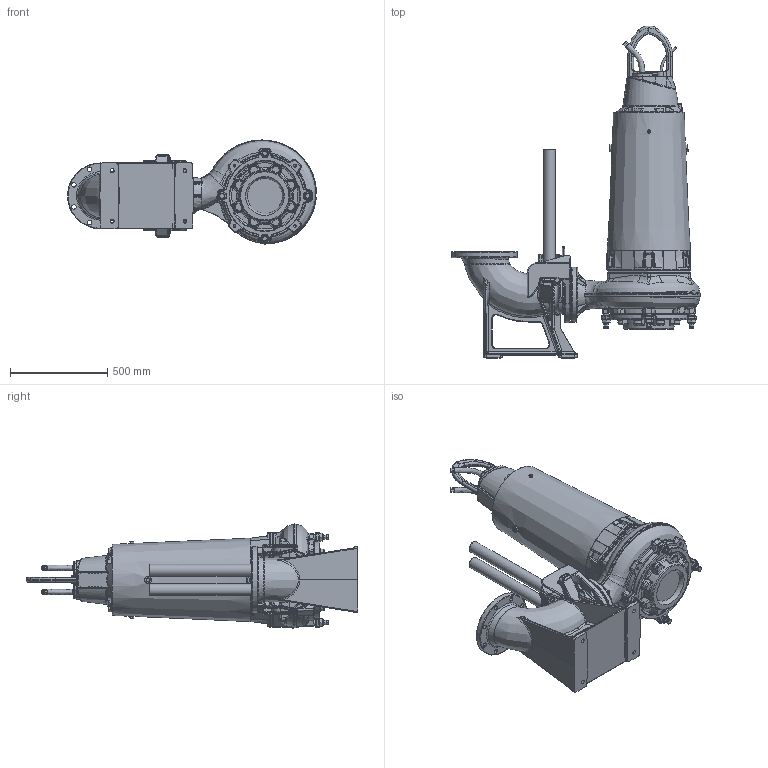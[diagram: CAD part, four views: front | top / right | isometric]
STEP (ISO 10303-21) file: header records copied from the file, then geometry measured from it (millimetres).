
FILE_DESCRIPTION (( 'STEP AP203' ), '1' );
FILE_NAME ('PE4_XFP155J-CB2_WET 2guide_NG2_DN 150-200.STEP', '2022-03-30T15:05:40', ( '' ), ( '' ), 'SwSTEP 2.0', 'SolidWorks 2017', '' );
FILE_SCHEMA (( 'CONFIG_CONTROL_DESIGN' ));
Products named in the file (2): PE4_XFP155J-CB2_WET 2guide_NG2_DN 150-200
Bounding box: 1282.59 x 1709.97 x 536.38 mm (x, y, z)
Volume: 200073325.8 mm3; surface area: 4806069.7 mm2
Topology: 46 solids, 56 shells, 4226 faces, 10066 edges, 5868 vertices
Faces by surface type: bspline 1409, plane 976, cylinder 933, cone 391, torus 347, sphere 170
Full cylindrical faces by diameter (mm): 2.9 x26, 5 x1, 6.8 x4, 8 x14, 8.5 x8, 9 x2, 10 x5, 10.2 x2, 11 x9, 11.5 x1, 14 x14, 16 x10, 17 x4, 17.5 x4, 18 x6, 18.5 x2, 19 x4, 20 x5, 22 x2, 23 x16, 23.481 x2, 23.482 x2, 25 x6, 27 x4, 27.5 x2, 29 x2, 34 x2, 35 x8, 36 x10, 53 x2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
Entity records: 222906 total; most frequent: CARTESIAN_POINT 139164, ORIENTED_EDGE 18856, DIRECTION 15011, EDGE_CURVE 9428, AXIS2_PLACEMENT_3D 6303, VERTEX_POINT 5735, EDGE_LOOP 4773, FACE_OUTER_BOUND 4454
